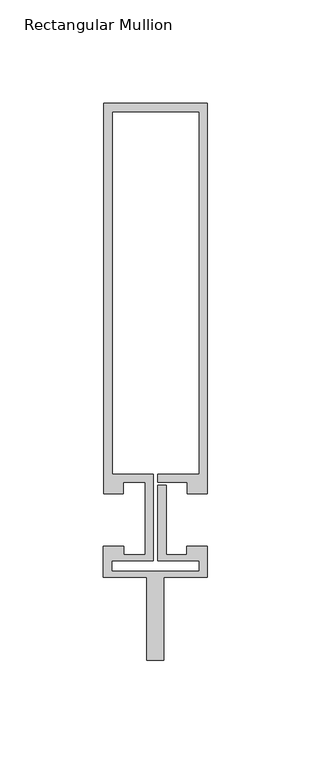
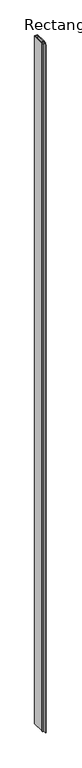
"""IFC4 building model written with IfcOpenShell, lengths in millimetres: member geometry, Rectangular Mullion : Reynaers_CW-50_Transom-Transom_188.5mm_Facecap-06B."""

from ifc_helpers import new_model, si_unit, frame, origin, place, context, project, spatial, polyline, outline, extrude, source, transform, mapped, element, save


def rectangular_mullion_2d673ba3(model_context):
    return source(origin(), model_context, "Body", "SweptSolid", [
        extrude(outline(polyline([(25.1995941, 12.7331291), (15.499, 12.7331291), (15.499, 18.1331291), (1.2995941, 18.1331291), (1.2995941, 22.1331291), (21.1995941, 22.1331291), (21.1995941, 197.2331291), (-20.8004059, 197.2331291), (-20.8004059, 22.1331291), (-0.9004059, 22.1331291), (-0.9004059, -19.7331291), (-20.994845, -19.7331291), (-20.994845, -24.6522629), (21.1995941, -24.6522629), (21.1995941, -19.7331291), (1.2995941, -19.7331291), (1.2995941, 16.7615089), (5.2995941, 16.7615089), (5.2995941, -16.7331291), (15.2996495, -16.7331291), (15.2996495, -12.7331291), (25.1995941, -12.7331291), (25.1995941, -27.7331291), (4.004855, -27.7331291), (4.004855, -67.7331291), (-3.995145, -67.7331291), (-3.995145, -27.7331291), (-24.994845, -27.7331291), (-24.994845, -12.7331291), (-15.2996495, -12.7331291), (-15.2996495, -16.7331291), (-4.9004059, -16.7331291), (-4.9004059, 18.1331291), (-15.499, 18.1331291), (-15.499, 12.7331291), (-24.8004059, 12.7331291), (-24.8004059, 201.2331291), (25.1995941, 201.2331291), (25.1995941, 12.7331291)])), frame((0.0, 0.0, -12000.0), z_axis=(0.0, 0.0, 1.0), x_axis=(1.0, 0.0, 0.0)), (0.0, 0.0, 1.0), 12000.0),
    ])


if __name__ == "__main__":
    model = new_model("IFC4")
    model_context = context("Model", 3, world=origin())
    ifc_project = project(units=[si_unit("LENGTHUNIT", "METRE", prefix="MILLI")], contexts=[model_context])
    site = spatial("IfcSite", under=ifc_project)
    building = spatial("IfcBuilding", under=site)
    placement = place(None, origin())
    rectangular_mullion_shape = rectangular_mullion_2d673ba3(model_context)
    element("IfcMember", 1, ObjectType="Rectangular Mullion : Reynaers_CW-50_Transom-Transom_188.5mm_Facecap-06B", at=placement, inside=building, context=model_context, shape_type="MappedRepresentation", body=[
        mapped(rectangular_mullion_shape, transform((0.0, 0.0, 0.0), x_axis=(1.0, 0.0, 0.0), y_axis=(0.0, 1.0, 0.0), z_axis=(0.0, 0.0, 1.0))),
    ])
    save(model, "model.ifc")
